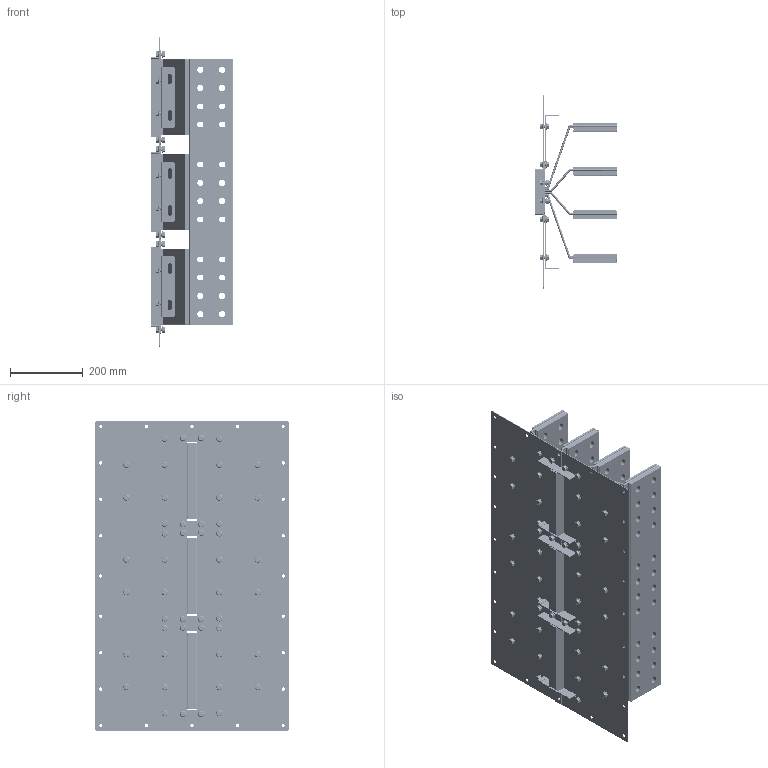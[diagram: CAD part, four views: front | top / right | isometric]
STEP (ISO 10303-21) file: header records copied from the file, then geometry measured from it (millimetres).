
FILE_DESCRIPTION(('CATIA V5 STEP','CAx-IF Rec.Pracs.--- Model Styling and Organization---1.5--- 2016-08-15','CAx-IF Rec.Pracs.---Supplemental Geometry---1.0---2011-11-01','CAx-IF Rec.Pracs.--- Composite Materials ---1.1---2010-07-15'),'2;1');
FILE_NAME('K:\COSCN 2011\32372311_RiduzioneSezioniBarre\03_Studio\__Modelli semplificati\XCP_UB semplificati per studi\XCP-HP_UB_4C_Pe_STD_Assieme\Al\XCP-HP_UB_4C_Pe_T_Assieme - 5000A Al\XCP-HP_UB_4C_Pe_T_Assieme - 5000A Al.stp','2025-05-12T10:01:17+00:00',('Utente Bticino'),('Bticino S.p.A.'),'CATIA Version 5-6 Release 2020 SP5','CATIA V5 STEP AP214 v2','none');
FILE_SCHEMA(('AUTOMOTIVE_DESIGN { 1 0 10303 214 1 1 1 1 }'));
Length unit declared in the file: millimetre
Products named in the file (7): XCP-HP_UB_4C_Pe_T_Assieme - 5000A Al; XCP-HP_UB_4C_Pe_T_Lamiere_5000A Al; XCP-HP_UB_4C_Pe_T_PaccoBarre_5000A Al; XCP-HP_UB_4C_Pe_T - 5000A Al_Bandelle parallelo; Ass Vite+dado M8; Steel hex flanged SCREW M12x16; Steel hex flanged NUT M8
Assembly tree (55 placements, depth 3):
  XCP-HP_UB_4C_Pe_T_Assieme - 5000A Al
    XCP-HP_UB_4C_Pe_T_Lamiere_5000A Al
    XCP-HP_UB_4C_Pe_T_PaccoBarre_5000A Al  x3
    XCP-HP_UB_4C_Pe_T - 5000A Al_Bandelle parallelo
    Ass Vite+dado M8  x48
      Steel hex flanged SCREW M12x16
      Steel hex flanged NUT M8
Bounding box: 225 x 530 x 850 mm (x, y, z)
Volume: 11157063.4 mm3; surface area: 4643270.2 mm2
Topology: 134 solids, 134 shells, 4400 faces, 11316 edges, 7280 vertices
Faces by surface type: plane 1940, cylinder 1596, cone 384, bspline 384, torus 96
Entity records: 57564 total; most frequent: CARTESIAN_POINT 10896, ORIENTED_EDGE 10684, DIRECTION 7168, EDGE_CURVE 5342, VERTEX_POINT 3538, VECTOR 3400, LINE 3400, AXIS2_PLACEMENT_3D 2822
